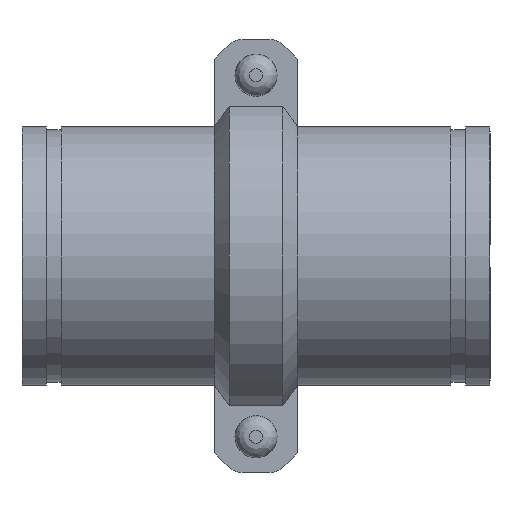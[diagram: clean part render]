
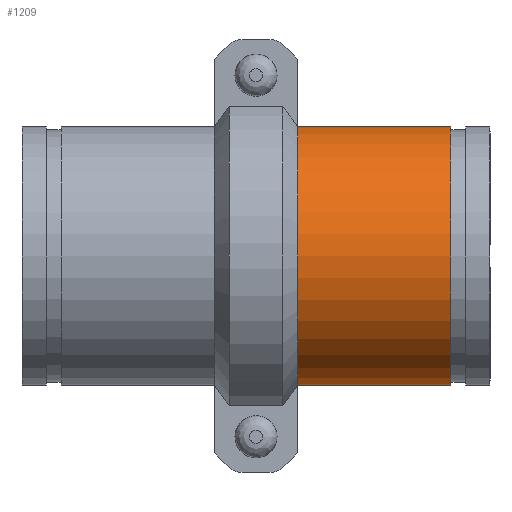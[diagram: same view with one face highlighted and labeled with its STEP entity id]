
A CAD part, front view. The second image highlights one B-rep face of the part: STEP entity #1209.
In plain terms, the highlighted cylindrical face has radius 84.138 mm (diameter 168.275 mm), a full revolution.
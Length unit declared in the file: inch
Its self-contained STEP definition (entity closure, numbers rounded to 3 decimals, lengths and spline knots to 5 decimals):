
#48=LINE('',#1929,#135);
#135=VECTOR('',#1570,3.3125);
#222=CYLINDRICAL_SURFACE('',#1395,3.3125);
#267=FACE_OUTER_BOUND('',#340,.T.);
#340=EDGE_LOOP('',(#797,#798,#799,#800,#801,#802));
#432=CIRCLE('',#1393,3.3125);
#433=CIRCLE('',#1394,3.3125);
#434=CIRCLE('',#1396,3.3125);
#435=CIRCLE('',#1397,3.3125);
#500=VERTEX_POINT('',#1920);
#501=VERTEX_POINT('',#1921);
#502=VERTEX_POINT('',#1925);
#503=VERTEX_POINT('',#1926);
#617=EDGE_CURVE('',#500,#501,#432,.T.);
#618=EDGE_CURVE('',#501,#500,#433,.T.);
#619=EDGE_CURVE('',#502,#503,#434,.T.);
#620=EDGE_CURVE('',#503,#502,#435,.T.);
#621=EDGE_CURVE('',#503,#501,#48,.T.);
#797=ORIENTED_EDGE('',*,*,#619,.F.);
#798=ORIENTED_EDGE('',*,*,#620,.F.);
#799=ORIENTED_EDGE('',*,*,#621,.T.);
#800=ORIENTED_EDGE('',*,*,#618,.T.);
#801=ORIENTED_EDGE('',*,*,#617,.T.);
#802=ORIENTED_EDGE('',*,*,#621,.F.);
#1209=ADVANCED_FACE('',(#267),#222,.T.);
#1393=AXIS2_PLACEMENT_3D('',#1922,#1560,#1561);
#1394=AXIS2_PLACEMENT_3D('',#1923,#1562,#1563);
#1395=AXIS2_PLACEMENT_3D('',#1924,#1564,#1565);
#1396=AXIS2_PLACEMENT_3D('',#1927,#1566,#1567);
#1397=AXIS2_PLACEMENT_3D('',#1928,#1568,#1569);
#1560=DIRECTION('center_axis',(-1.,0.,0.));
#1561=DIRECTION('ref_axis',(0.,0.,1.));
#1562=DIRECTION('center_axis',(-1.,0.,0.));
#1563=DIRECTION('ref_axis',(0.,0.,1.));
#1564=DIRECTION('center_axis',(-1.,0.,0.));
#1565=DIRECTION('ref_axis',(0.,1.,0.));
#1566=DIRECTION('center_axis',(-1.,0.,0.));
#1567=DIRECTION('ref_axis',(0.,0.,1.));
#1568=DIRECTION('center_axis',(-1.,0.,0.));
#1569=DIRECTION('ref_axis',(0.,0.,1.));
#1570=DIRECTION('',(1.,0.,0.));
#1920=CARTESIAN_POINT('',(1.985,3.3125,0.));
#1921=CARTESIAN_POINT('',(1.985,-3.3125,0.));
#1922=CARTESIAN_POINT('Origin',(1.985,0.,0.));
#1923=CARTESIAN_POINT('Origin',(1.985,0.,0.));
#1924=CARTESIAN_POINT('Origin',(0.,0.,
0.));
#1925=CARTESIAN_POINT('',(-1.985,3.3125,0.));
#1926=CARTESIAN_POINT('',(-1.985,-3.3125,0.));
#1927=CARTESIAN_POINT('Origin',(-1.985,0.,0.));
#1928=CARTESIAN_POINT('Origin',(-1.985,0.,0.));
#1929=CARTESIAN_POINT('',(0.,-3.3125,0.));
